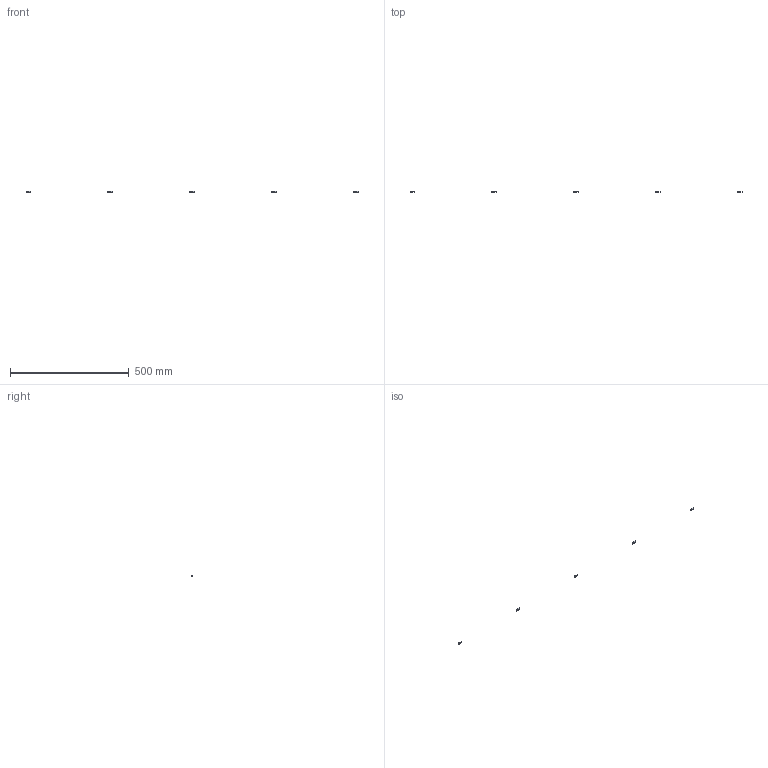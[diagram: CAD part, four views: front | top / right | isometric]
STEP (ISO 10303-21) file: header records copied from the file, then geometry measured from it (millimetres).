
FILE_DESCRIPTION(/* description */ (''),/* implementation_level */ '2;1');
FILE_NAME(/* name */ '8.x-drive#8.7#HNTPZ5-5',/* time_stamp */ '2014-12-01T20:18:20+01:00',/* author */ (''),/* organization */ (''),/* preprocessor_version */ 'ST-DEVELOPER v14',/* originating_system */ '',/* authorisation */ '');
FILE_SCHEMA (('AUTOMOTIVE_DESIGN'));
Length unit declared in the file: millimetre
Products named in the file (2): Document; nut tslot, post, M5
Assembly tree (5 placements, depth 2):
  Document
    nut tslot, post, M5  x5
Bounding box: 1397 x 3.8 x 8.3 mm (x, y, z)
Volume: 1575.1 mm3; surface area: 2097.5 mm2
Topology: 5 solids, 5 shells, 65 faces, 180 edges, 120 vertices
Faces by surface type: plane 55, bspline 10
Entity records: 1033 total; most frequent: CARTESIAN_POINT 464, B_SPLINE_CURVE_WITH_KNOTS 100, ORIENTED_EDGE 72, PCURVE 72, DEFINITIONAL_REPRESENTATION 72, SURFACE_CURVE 36, EDGE_CURVE 36, DIRECTION 26
